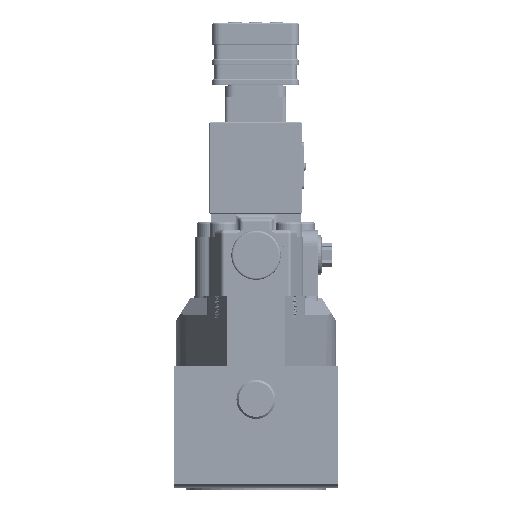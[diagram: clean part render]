
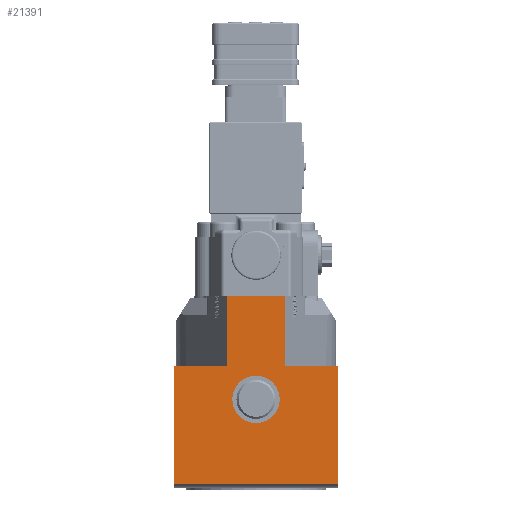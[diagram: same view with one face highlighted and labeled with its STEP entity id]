
A CAD part, left-side view. The second image highlights one B-rep face of the part: STEP entity #21391.
In plain terms, the highlighted planar face has unit normal (-1, 0, 0).
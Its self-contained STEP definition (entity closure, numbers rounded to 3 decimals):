
#4046=LINE('',#118002,#7635);
#4069=LINE('',#118063,#7658);
#4070=LINE('',#118066,#7659);
#4071=LINE('',#118067,#7660);
#4072=LINE('',#118069,#7661);
#4073=LINE('',#118071,#7662);
#4074=LINE('',#118073,#7663);
#4075=LINE('',#118075,#7664);
#7635=VECTOR('',#69080,1.);
#7658=VECTOR('',#69125,1.);
#7659=VECTOR('',#69126,1.);
#7660=VECTOR('',#69127,1.);
#7661=VECTOR('',#69128,1.);
#7662=VECTOR('',#69129,1.);
#7663=VECTOR('',#69130,1.);
#7664=VECTOR('',#69131,1.);
#19171=PLANE('',#58803);
#21391=ADVANCED_FACE('',(#23994,#23995),#19171,.T.);
#23994=FACE_BOUND('',#27057,.T.);
#23995=FACE_BOUND('',#27058,.T.);
#27057=EDGE_LOOP('',(#37403));
#27058=EDGE_LOOP('',(#37404,#37405,#37406,#37407,#37408,#37409,#37410,#37411));
#37403=ORIENTED_EDGE('',*,*,#51473,.F.);
#37404=ORIENTED_EDGE('',*,*,#51474,.F.);
#37405=ORIENTED_EDGE('',*,*,#51475,.T.);
#37406=ORIENTED_EDGE('',*,*,#51444,.F.);
#37407=ORIENTED_EDGE('',*,*,#51476,.T.);
#37408=ORIENTED_EDGE('',*,*,#51477,.F.);
#37409=ORIENTED_EDGE('',*,*,#51478,.F.);
#37410=ORIENTED_EDGE('',*,*,#51479,.T.);
#37411=ORIENTED_EDGE('',*,*,#51480,.F.);
#45335=VERTEX_POINT('',#118003);
#45336=VERTEX_POINT('',#118004);
#45361=VERTEX_POINT('',#118062);
#45362=VERTEX_POINT('',#118064);
#45363=VERTEX_POINT('',#118065);
#45364=VERTEX_POINT('',#118068);
#45365=VERTEX_POINT('',#118070);
#45366=VERTEX_POINT('',#118072);
#45367=VERTEX_POINT('',#118074);
#51444=EDGE_CURVE('',#45335,#45336,#4046,.T.);
#51473=EDGE_CURVE('',#45361,#45361,#55181,.T.);
#51474=EDGE_CURVE('',#45362,#45363,#4069,.T.);
#51475=EDGE_CURVE('',#45362,#45336,#4070,.T.);
#51476=EDGE_CURVE('',#45335,#45364,#4071,.T.);
#51477=EDGE_CURVE('',#45365,#45364,#4072,.T.);
#51478=EDGE_CURVE('',#45366,#45365,#4073,.T.);
#51479=EDGE_CURVE('',#45366,#45367,#4074,.T.);
#51480=EDGE_CURVE('',#45363,#45367,#4075,.T.);
#55181=CIRCLE('',#58802,11.5);
#58802=AXIS2_PLACEMENT_3D('',#118061,#69123,#69124);
#58803=AXIS2_PLACEMENT_3D('',#118076,#69132,#69133);
#69080=DIRECTION('',(0.,1.,0.));
#69123=DIRECTION('',(-1.,0.,0.));
#69124=DIRECTION('',(0.,0.,-1.));
#69125=DIRECTION('',(0.,-1.,0.));
#69126=DIRECTION('',(0.,0.,-1.));
#69127=DIRECTION('',(0.,0.,1.));
#69128=DIRECTION('',(0.,-1.,0.));
#69129=DIRECTION('',(0.,0.,-1.));
#69130=DIRECTION('',(0.,1.,0.));
#69131=DIRECTION('',(0.,0.,1.));
#69132=DIRECTION('',(-1.,0.,0.));
#69133=DIRECTION('',(0.,0.,-1.));
#118002=CARTESIAN_POINT('',(540.378,243.223,-47.586));
#118003=CARTESIAN_POINT('',(540.378,10.17,-47.612));
#118004=CARTESIAN_POINT('',(540.378,90.17,-47.603));
#118061=CARTESIAN_POINT('',(540.378,50.166,-6.363));
#118062=CARTESIAN_POINT('',(540.378,50.167,-17.863));
#118063=CARTESIAN_POINT('',(540.378,89.164,9.642));
#118064=CARTESIAN_POINT('',(540.378,90.164,9.642));
#118065=CARTESIAN_POINT('',(540.378,64.443,9.639));
#118066=CARTESIAN_POINT('',(540.378,90.165,1.142));
#118067=CARTESIAN_POINT('',(540.378,10.165,1.133));
#118068=CARTESIAN_POINT('',(540.378,10.164,9.633));
#118069=CARTESIAN_POINT('',(540.378,8.764,9.633));
#118070=CARTESIAN_POINT('',(540.378,35.885,9.636));
#118071=CARTESIAN_POINT('',(540.378,35.885,9.636));
#118072=CARTESIAN_POINT('',(540.378,35.881,43.636));
#118073=CARTESIAN_POINT('',(540.378,8.76,43.633));
#118074=CARTESIAN_POINT('',(540.378,64.439,43.639));
#118075=CARTESIAN_POINT('',(540.378,64.443,9.639));
#118076=CARTESIAN_POINT('',(540.378,50.165,1.137));
